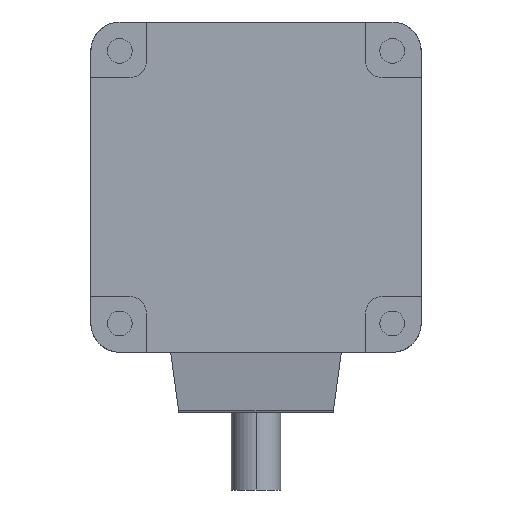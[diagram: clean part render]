
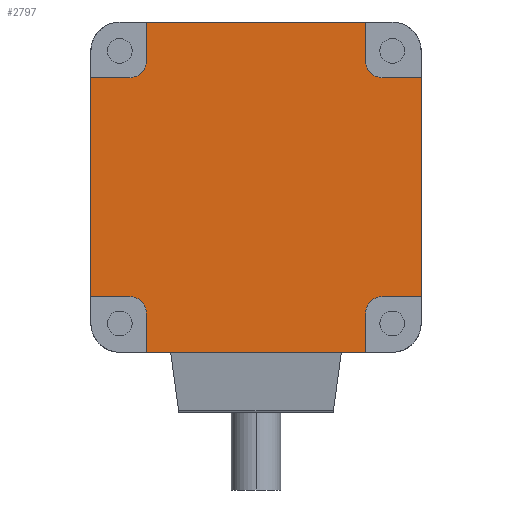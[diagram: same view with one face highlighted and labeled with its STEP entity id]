
A CAD part, left-side view. The second image highlights one B-rep face of the part: STEP entity #2797.
In plain terms, the highlighted planar face has unit normal (-1, 0, 0).
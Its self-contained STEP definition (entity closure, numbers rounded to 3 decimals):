
#2658=CARTESIAN_POINT('POINT234216',(-80.,29.99,-29.9));
#2659=VERTEX_POINT('VERTEX234216',#2658);
#2660=CARTESIAN_POINT('POINT234217',(-80.,22.9,-29.9));
#2661=VERTEX_POINT('VERTEX234217',#2660);
#2662=CARTESIAN_POINT('POS399251',(-80.,11.45,-29.9));
#2663=DIRECTION('DIR579989',(0.,-1.,0.));
#2664=VECTOR('VEC218513',#2663,1.);
#2665=LINE('STRAIGHT218513',#2662,#2664);
#2666=EDGE_CURVE('EDGE362365',#2659,#2661,#2665,.T.);
#2667=ORIENTED_EDGE('COEDGE724881',*,*,#2666,.T.);
#2668=CARTESIAN_POINT('POINT234218',(-80.,19.9,-32.9));
#2669=VERTEX_POINT('VERTEX234218',#2668);
#2670=CARTESIAN_POINT('POS399252',(-80.,22.9,-32.9));
#2671=DIRECTION('DIR579990',(1.,0.,0.));
#2672=DIRECTION('DIR579991',(0.,-1.,0.));
#2673=AXIS2_PLACEMENT_3D('AXIS180739',#2670,#2671,#2672);
#2674=CIRCLE('ELLIPSE73797',#2673,3.);
#2675=EDGE_CURVE('EDGE362366',#2661,#2669,#2674,.T.);
#2676=ORIENTED_EDGE('COEDGE724882',*,*,#2675,.T.);
#2677=CARTESIAN_POINT('POINT234219',(-80.,19.9,-39.99));
#2678=VERTEX_POINT('VERTEX234219',#2677);
#2679=CARTESIAN_POINT('POS399253',(-80.,19.9,-26.5));
#2680=DIRECTION('DIR579992',(0.,0.,-1.))
   ;
#2681=VECTOR('VEC218514',#2680,1.);
#2682=LINE('STRAIGHT218514',#2679,#2681);
#2683=EDGE_CURVE('EDGE362367',#2669,#2678,#2682,.T.);
#2684=ORIENTED_EDGE('COEDGE724883',*,*,#2683,.T.);
#2685=CARTESIAN_POINT('POINT234220',(-80.,-19.9,-39.99));
#2686=VERTEX_POINT('VERTEX234220',#2685);
#2687=CARTESIAN_POINT('POS399254',(-80.,0.,-39.99));
#2688=DIRECTION('DIR579993',(0.,1.,0.));
#2689=VECTOR('VEC218515',#2688,1.);
#2690=LINE('STRAIGHT218515',#2687,#2689);
#2691=EDGE_CURVE('EDGE362368',#2686,#2678,#2690,.T.);
#2692=ORIENTED_EDGE('COEDGE724884',*,*,#2691,.F.);
#2693=CARTESIAN_POINT('POINT234221',(-80.,-19.9,-32.9));
#2694=VERTEX_POINT('VERTEX234221',#2693);
#2695=CARTESIAN_POINT('POS399255',(-80.,-19.9,-21.45));
#2696=DIRECTION('DIR579994',(0.,0.,1.));
#2697=VECTOR('VEC218516',#2696,1.);
#2698=LINE('STRAIGHT218516',#2695,#2697);
#2699=EDGE_CURVE('EDGE362369',#2686,#2694,#2698,.T.);
#2700=ORIENTED_EDGE('COEDGE724885',*,*,#2699,.T.);
#2701=CARTESIAN_POINT('POINT234222',(-80.,-22.9,-29.9));
#2702=VERTEX_POINT('VERTEX234222',#2701);
#2703=CARTESIAN_POINT('POS399256',(-80.,-22.9,-32.9));
#2704=DIRECTION('DIR579995',(1.,0.,0.));
#2705=DIRECTION('DIR579996',(0.,0.,1.));
#2706=AXIS2_PLACEMENT_3D('AXIS180740',#2703,#2704,#2705);
#2707=CIRCLE('ELLIPSE73798',#2706,3.);
#2708=EDGE_CURVE('EDGE362370',#2694,#2702,#2707,.T.);
#2709=ORIENTED_EDGE('COEDGE724886',*,*,#2708,.T.);
#2710=CARTESIAN_POINT('POINT234223',(-80.,-29.99,-29.9));
#2711=VERTEX_POINT('VERTEX234223',#2710);
#2712=CARTESIAN_POINT('POS399257',(-80.,-16.5,-29.9));
#2713=DIRECTION('DIR579997',(0.,-1.,0.));
#2714=VECTOR('VEC218517',#2713,1.);
#2715=LINE('STRAIGHT218517',#2712,#2714);
#2716=EDGE_CURVE('EDGE362371',#2702,#2711,#2715,.T.);
#2717=ORIENTED_EDGE('COEDGE724887',*,*,#2716,.T.);
#2718=CARTESIAN_POINT('POINT234224',(-80.,-29.99,9.9));
#2719=VERTEX_POINT('VERTEX234224',#2718);
#2720=CARTESIAN_POINT('POS399258',(-80.,-29.99,14.7));
#2721=DIRECTION('DIR579998',(0.,0.,-1.));
#2722=VECTOR('VEC218518',#2721,1.);
#2723=LINE('STRAIGHT218518',#2720,#2722);
#2724=EDGE_CURVE('EDGE362372',#2719,#2711,#2723,.T.);
#2725=ORIENTED_EDGE('COEDGE724888',*,*,#2724,.F.);
#2726=CARTESIAN_POINT('POINT234225',(-80.,-22.9,9.9));
#2727=VERTEX_POINT('VERTEX234225',#2726);
#2728=CARTESIAN_POINT('POS399259',(-80.,-11.45,9.9));
#2729=DIRECTION('DIR579999',(0.,1.,0.));
#2730=VECTOR('VEC218519',#2729,1.);
#2731=LINE('STRAIGHT218519',#2728,#2730);
#2732=EDGE_CURVE('EDGE362373',#2719,#2727,#2731,.T.);
#2733=ORIENTED_EDGE('COEDGE724889',*,*,#2732,.T.);
#2734=CARTESIAN_POINT('POINT234226',(-80.,-19.9,12.9));
#2735=VERTEX_POINT('VERTEX234226',#2734);
#2736=CARTESIAN_POINT('POS399260',(-80.,-22.9,12.9));
#2737=DIRECTION('DIR580000',(1.,0.,0.));
#2738=DIRECTION('DIR580001',(0.,1.,0.));
#2739=AXIS2_PLACEMENT_3D('AXIS180741',#2736,#2737,#2738);
#2740=CIRCLE('ELLIPSE73799',#2739,3.);
#2741=EDGE_CURVE('EDGE362374',#2727,#2735,#2740,.T.);
#2742=ORIENTED_EDGE('COEDGE724890',*,*,#2741,.T.);
#2743=CARTESIAN_POINT('POINT234227',(-80.,-19.9,19.99));
#2744=VERTEX_POINT('VERTEX234227',#2743);
#2745=CARTESIAN_POINT('POS399261',(-80.,-19.9,
   6.5));
#2746=DIRECTION('DIR580002',(0.,0.,1.));
#2747=VECTOR('VEC218520',#2746,1.);
#2748=LINE('STRAIGHT218520',#2745,#2747);
#2749=EDGE_CURVE('EDGE362375',#2735,#2744,#2748,.T.);
#2750=ORIENTED_EDGE('COEDGE724891',*,*,#2749,.T.);
#2751=CARTESIAN_POINT('POINT234228',(-80.,19.9,19.99));
#2752=VERTEX_POINT('VERTEX234228',#2751);
#2753=CARTESIAN_POINT('POS399262',(-80.,24.7,19.99));
#2754=DIRECTION('DIR580003',(0.,-1.,0.));
#2755=VECTOR('VEC218521',#2754,1.);
#2756=LINE('STRAIGHT218521',#2753,#2755);
#2757=EDGE_CURVE('EDGE362376',#2752,#2744,#2756,.T.);
#2758=ORIENTED_EDGE('COEDGE724892',*,*,#2757,.F.);
#2759=CARTESIAN_POINT('POINT234229',(-80.,19.9,12.9));
#2760=VERTEX_POINT('VERTEX234229',#2759);
#2761=CARTESIAN_POINT('POS399263',(-80.,19.9,1.45));
#2762=DIRECTION('DIR580004',(0.,0.,-1.));
#2763=VECTOR('VEC218522',#2762,1.);
#2764=LINE('STRAIGHT218522',#2761,#2763);
#2765=EDGE_CURVE('EDGE362377',#2752,#2760,#2764,.T.);
#2766=ORIENTED_EDGE('COEDGE724893',*,*,#2765,.T.);
#2767=CARTESIAN_POINT('POINT234230',(-80.,22.9,9.9));
#2768=VERTEX_POINT('VERTEX234230',#2767);
#2769=CARTESIAN_POINT('POS399264',(-80.,22.9,12.9));
#2770=DIRECTION('DIR580005',(1.,0.,0.));
#2771=DIRECTION('DIR580006',(0.,0.,-1.));
#2772=AXIS2_PLACEMENT_3D('AXIS180742',#2769,#2770,#2771);
#2773=CIRCLE('ELLIPSE73800',#2772,3.);
#2774=EDGE_CURVE('EDGE362378',#2760,#2768,#2773,.T.);
#2775=ORIENTED_EDGE('COEDGE724894',*,*,#2774,.T.);
#2776=CARTESIAN_POINT('POINT234231',(-80.,29.99,9.9));
#2777=VERTEX_POINT('VERTEX234231',#2776);
#2778=CARTESIAN_POINT('POS399265',(-80.,16.5,9.9));
#2779=DIRECTION('DIR580007',(0.,1.,0.));
#2780=VECTOR('VEC218523',#2779,1.);
#2781=LINE('STRAIGHT218523',#2778,#2780);
#2782=EDGE_CURVE('EDGE362379',#2768,#2777,#2781,.T.);
#2783=ORIENTED_EDGE('COEDGE724895',*,*,#2782,.T.);
#2784=CARTESIAN_POINT('POS399266',(-80.,29.99,-34.7));
#2785=DIRECTION('DIR580008',(0.,0.,1.));
#2786=VECTOR('VEC218524',#2785,1.);
#2787=LINE('STRAIGHT218524',#2784,#2786);
#2788=EDGE_CURVE('EDGE362380',#2659,#2777,#2787,.T.);
#2789=ORIENTED_EDGE('COEDGE724896',*,*,#2788,.F.);
#2790=EDGE_LOOP('NONE',(#2667,#2676,#2684,#2692,#2700,#2709,#2717,#2725,
   #2733,#2742,#2750,#2758,#2766,#2775,#2783,#2789));
#2791=FACE_BOUND('LOOP1',#2790,.T.);
#2792=CARTESIAN_POINT('POS399267',(-80.,0.,
   -10.));
#2793=DIRECTION('DIR580009',(1.,0.,0.));
#2794=DIRECTION('DIR580010',(0.,1.,0.));
#2795=AXIS2_PLACEMENT_3D('AXIS180743',#2792,#2793,#2794);
#2796=PLANE('PLANE75038',#2795);
#2797=ADVANCED_FACE('FACE140604',(#2791),#2796,.F.);
